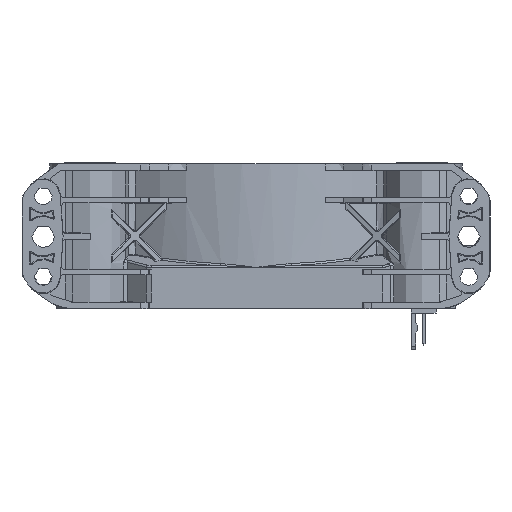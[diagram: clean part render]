
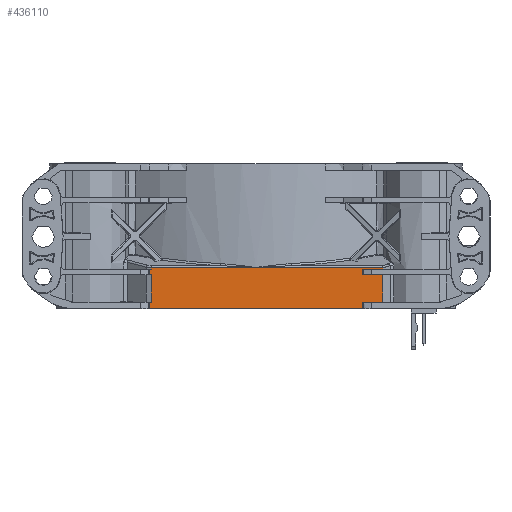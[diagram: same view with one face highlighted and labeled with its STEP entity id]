
A CAD part, front view. The second image highlights one B-rep face of the part: STEP entity #436110.
In plain terms, the highlighted planar face has unit normal (0, -1, 0) as drawn and (0.028, -1, 0) by its records, which use the part's own axes.
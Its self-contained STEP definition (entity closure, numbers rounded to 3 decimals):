
#125000=CARTESIAN_POINT('',(-16.163,-149.146,
-424.33));
#125010=VERTEX_POINT('',#125000);
#125060=CARTESIAN_POINT('',(0.,-148.693,-424.33));
#125070=DIRECTION('',(1.,0.028,
0.));
#125080=VECTOR('',#125070,1.);
#125090=LINE('',#125060,#125080);
#125100=CARTESIAN_POINT('',(-16.621,-149.158,
-424.33));
#125110=VERTEX_POINT('',#125100);
#125120=EDGE_CURVE('',#125110,#125010,#125090,.T.);
#226610=CARTESIAN_POINT('',(-16.621,-149.158,
-431.98));
#226620=VERTEX_POINT('',#226610);
#226650=CARTESIAN_POINT('',(-16.621,-149.158,
-431.98));
#226660=DIRECTION('',(0.,0.,-1.));
#226670=VECTOR('',#226660,1.);
#226680=LINE('',#226650,#226670);
#226690=CARTESIAN_POINT('',(-16.621,-149.158,
-433.484));
#226700=VERTEX_POINT('',#226690);
#226710=EDGE_CURVE('',#226620,#226700,#226680,.T.);
#259360=CARTESIAN_POINT('',(-16.163,-149.146,
-431.98));
#259370=VERTEX_POINT('',#259360);
#259420=CARTESIAN_POINT('',(0.,-148.693,-431.98));
#259430=DIRECTION('',(1.,0.028,
0.));
#259440=VECTOR('',#259430,1.);
#259450=LINE('',#259420,#259440);
#259460=EDGE_CURVE('',#226620,#259370,#259450,.T.);
#306090=CARTESIAN_POINT('',(-16.621,-149.158,
-425.538));
#306100=VERTEX_POINT('',#306090);
#306130=CARTESIAN_POINT('',(0.,-148.693,-425.538));
#306140=DIRECTION('',(1.,0.028,
0.));
#306150=VECTOR('',#306140,1.);
#306160=LINE('',#306130,#306150);
#306170=CARTESIAN_POINT('',(-16.163,-149.146,
-425.538));
#306180=VERTEX_POINT('',#306170);
#306190=EDGE_CURVE('',#306100,#306180,#306160,.T.);
#338580=CARTESIAN_POINT('',(-16.621,-149.158,
-425.538));
#338590=DIRECTION('',(0.,0.,1.));
#338600=VECTOR('',#338590,1.);
#338610=LINE('',#338580,#338600);
#338620=EDGE_CURVE('',#306100,#125110,#338610,.T.);
#353020=CARTESIAN_POINT('',(33.519,-147.755,
-425.538));
#353030=VERTEX_POINT('',#353020);
#353060=CARTESIAN_POINT('',(33.519,-147.755,
-425.538));
#353070=DIRECTION('',(0.,0.,1.));
#353080=VECTOR('',#353070,1.);
#353090=LINE('',#353060,#353080);
#353100=CARTESIAN_POINT('',(33.519,-147.755,
-424.33));
#353110=VERTEX_POINT('',#353100);
#353120=EDGE_CURVE('',#353030,#353110,#353090,.T.);
#382610=CARTESIAN_POINT('',(-16.163,-149.146,
-423.889));
#382620=VERTEX_POINT('',#382610);
#384320=CARTESIAN_POINT('',(-16.163,-149.146,
-423.889));
#384330=DIRECTION('',(0.,0.,-1.));
#384340=VECTOR('',#384330,1.);
#384350=LINE('',#384320,#384340);
#384360=EDGE_CURVE('',#382620,#125010,#384350,.T.);
#435310=CARTESIAN_POINT('',(-17.992,-149.197,
-433.724));
#435320=DIRECTION('',(0.028,-1.,0.));
#435330=DIRECTION('',(-1.,-0.028,0.));
#435340=AXIS2_PLACEMENT_3D('',#435310,#435320,#435330);
#435350=PLANE('',#435340);
#435360=ORIENTED_EDGE('',*,*,#226710,.T.);
#435370=ORIENTED_EDGE('',*,*,#259460,.F.);
#435380=CARTESIAN_POINT('',(-16.163,-149.146,
-431.98));
#435390=DIRECTION('',(0.,0.,1.));
#435400=VECTOR('',#435390,1.);
#435410=LINE('',#435380,#435400);
#435420=EDGE_CURVE('',#259370,#306180,#435410,.T.);
#435430=ORIENTED_EDGE('',*,*,#435420,.F.);
#435440=ORIENTED_EDGE('',*,*,#306190,.T.);
#435450=ORIENTED_EDGE('',*,*,#338620,.F.);
#435460=ORIENTED_EDGE('',*,*,#125120,.F.);
#435470=ORIENTED_EDGE('',*,*,#384360,.T.);
#435480=CARTESIAN_POINT('',(38.235,-147.623,
-423.889));
#435490=DIRECTION('',(-1.,-0.028,0.));
#435500=VECTOR('',#435490,1.);
#435510=LINE('',#435480,#435500);
#435520=CARTESIAN_POINT('',(38.235,-147.623,
-423.889));
#435530=VERTEX_POINT('',#435520);
#435540=EDGE_CURVE('',#435530,#382620,#435510,.T.);
#435550=ORIENTED_EDGE('',*,*,#435540,.T.);
#435560=CARTESIAN_POINT('',(38.235,-147.623,
-424.33));
#435570=DIRECTION('',(0.,0.,1.));
#435580=VECTOR('',#435570,1.);
#435590=LINE('',#435560,#435580);
#435600=CARTESIAN_POINT('',(38.235,-147.623,
-424.33));
#435610=VERTEX_POINT('',#435600);
#435620=EDGE_CURVE('',#435610,#435530,#435590,.T.);
#435630=ORIENTED_EDGE('',*,*,#435620,.T.);
#435640=CARTESIAN_POINT('',(0.,-148.693,-424.33));
#435650=DIRECTION('',(-1.,-0.028,
0.));
#435660=VECTOR('',#435650,1.);
#435670=LINE('',#435640,#435660);
#435680=EDGE_CURVE('',#435610,#353110,#435670,.T.);
#435690=ORIENTED_EDGE('',*,*,#435680,.F.);
#435700=ORIENTED_EDGE('',*,*,#353120,.T.);
#435710=CARTESIAN_POINT('',(0.,-148.693,-425.538));
#435720=DIRECTION('',(-1.,-0.028,
0.));
#435730=VECTOR('',#435720,1.);
#435740=LINE('',#435710,#435730);
#435750=CARTESIAN_POINT('',(38.235,-147.623,
-425.538));
#435760=VERTEX_POINT('',#435750);
#435770=EDGE_CURVE('',#435760,#353030,#435740,.T.);
#435780=ORIENTED_EDGE('',*,*,#435770,.T.);
#435790=CARTESIAN_POINT('',(38.235,-147.623,
-431.98));
#435800=DIRECTION('',(0.,0.,1.));
#435810=VECTOR('',#435800,1.);
#435820=LINE('',#435790,#435810);
#435830=CARTESIAN_POINT('',(38.235,-147.623,
-431.98));
#435840=VERTEX_POINT('',#435830);
#435850=EDGE_CURVE('',#435840,#435760,#435820,.T.);
#435860=ORIENTED_EDGE('',*,*,#435850,.T.);
#435870=CARTESIAN_POINT('',(0.,-148.693,-431.98));
#435880=DIRECTION('',(-1.,-0.028,
0.));
#435890=VECTOR('',#435880,1.);
#435900=LINE('',#435870,#435890);
#435910=CARTESIAN_POINT('',(33.519,-147.755,
-431.98));
#435920=VERTEX_POINT('',#435910);
#435930=EDGE_CURVE('',#435840,#435920,#435900,.T.);
#435940=ORIENTED_EDGE('',*,*,#435930,.F.);
#435950=CARTESIAN_POINT('',(33.519,-147.755,
-431.98));
#435960=DIRECTION('',(0.,0.,-1.));
#435970=VECTOR('',#435960,1.);
#435980=LINE('',#435950,#435970);
#435990=CARTESIAN_POINT('',(33.519,-147.755,
-433.484));
#436000=VERTEX_POINT('',#435990);
#436010=EDGE_CURVE('',#435920,#436000,#435980,.T.);
#436020=ORIENTED_EDGE('',*,*,#436010,.F.);
#436030=CARTESIAN_POINT('',(0.,-148.693,-433.484));
#436040=DIRECTION('',(-1.,-0.028,0.));
#436050=VECTOR('',#436040,1.);
#436060=LINE('',#436030,#436050);
#436070=EDGE_CURVE('',#436000,#226700,#436060,.T.);
#436080=ORIENTED_EDGE('',*,*,#436070,.F.);
#436090=EDGE_LOOP('',(#436080,#436020,#435940,#435860,#435780,#435700,
#435690,#435630,#435550,#435470,#435460,#435450,#435440,#435430,#435370,
#435360));
#436100=FACE_OUTER_BOUND('',#436090,.T.);
#436110=ADVANCED_FACE('',(#436100),#435350,.T.);
